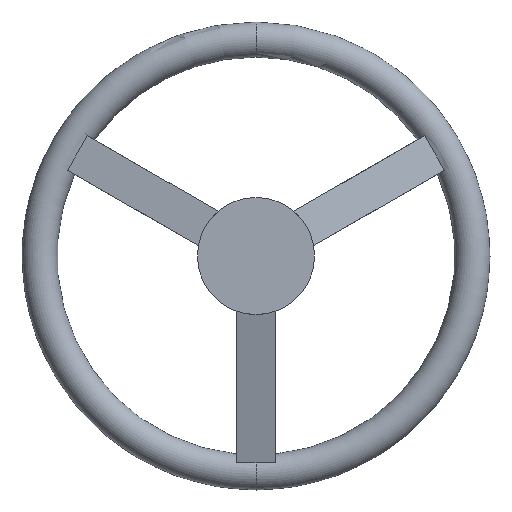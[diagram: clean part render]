
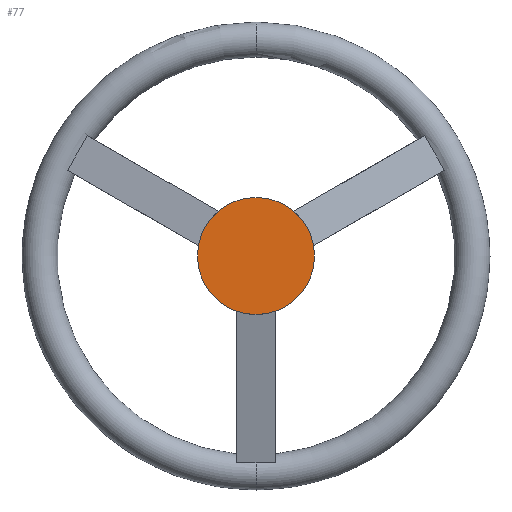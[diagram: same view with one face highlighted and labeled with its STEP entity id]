
A CAD part, front view. The second image highlights one B-rep face of the part: STEP entity #77.
In plain terms, the highlighted planar face has unit normal (0, -1, 0).
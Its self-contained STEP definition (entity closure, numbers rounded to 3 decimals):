
#10 = FACE_OUTER_BOUND ( 'NONE', #324, .T. ) ;
#35 = VERTEX_POINT ( 'NONE', #290 ) ;
#54 = DIRECTION ( 'NONE',  ( 0., 1., 0. ) ) ;
#62 = CIRCLE ( 'NONE', #871, 25. ) ;
#63 = AXIS2_PLACEMENT_3D ( 'NONE', #547, #181, #106 ) ;
#68 = DIRECTION ( 'NONE',  ( 0., 0., 1. ) ) ;
#77 = ADVANCED_FACE ( 'NONE', ( #10 ), #373, .F. ) ;
#106 = DIRECTION ( 'NONE',  ( 0., 0., 1. ) ) ;
#117 = CARTESIAN_POINT ( 'NONE',  ( 0., 0., 0. ) ) ;
#181 = DIRECTION ( 'NONE',  ( 0., 1., 0. ) ) ;
#194 = CIRCLE ( 'NONE', #63, 25. ) ;
#290 = CARTESIAN_POINT ( 'NONE',  ( 0., 0., -25. ) ) ;
#324 = EDGE_LOOP ( 'NONE', ( #652, #577 ) ) ;
#364 = CARTESIAN_POINT ( 'NONE',  ( 0., 0., 0. ) ) ;
#373 = PLANE ( 'NONE',  #831 ) ;
#426 = EDGE_CURVE ( 'NONE', #35, #816, #62, .T. ) ;
#490 = CARTESIAN_POINT ( 'NONE',  ( 0., 0., 25. ) ) ;
#506 = DIRECTION ( 'NONE',  ( 0., 1., 0. ) ) ;
#547 = CARTESIAN_POINT ( 'NONE',  ( 0., 0., 0. ) ) ;
#577 = ORIENTED_EDGE ( 'NONE', *, *, #661, .F. ) ;
#652 = ORIENTED_EDGE ( 'NONE', *, *, #426, .F. ) ;
#661 = EDGE_CURVE ( 'NONE', #816, #35, #194, .T. ) ;
#776 = DIRECTION ( 'NONE',  ( 0., 0., 1. ) ) ;
#816 = VERTEX_POINT ( 'NONE', #490 ) ;
#831 = AXIS2_PLACEMENT_3D ( 'NONE', #364, #506, #776 ) ;
#871 = AXIS2_PLACEMENT_3D ( 'NONE', #117, #54, #68 ) ;
